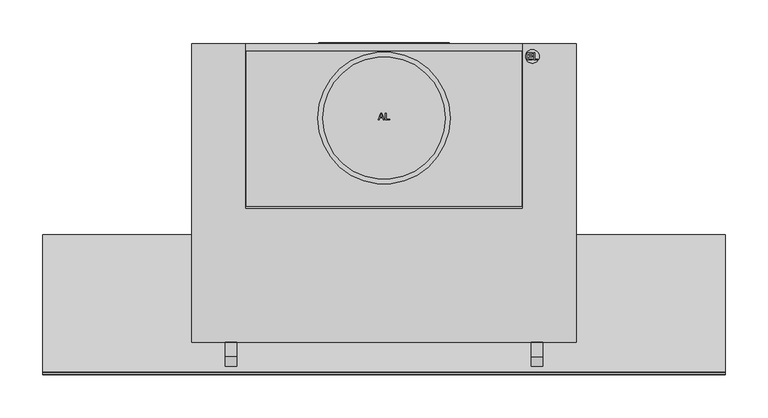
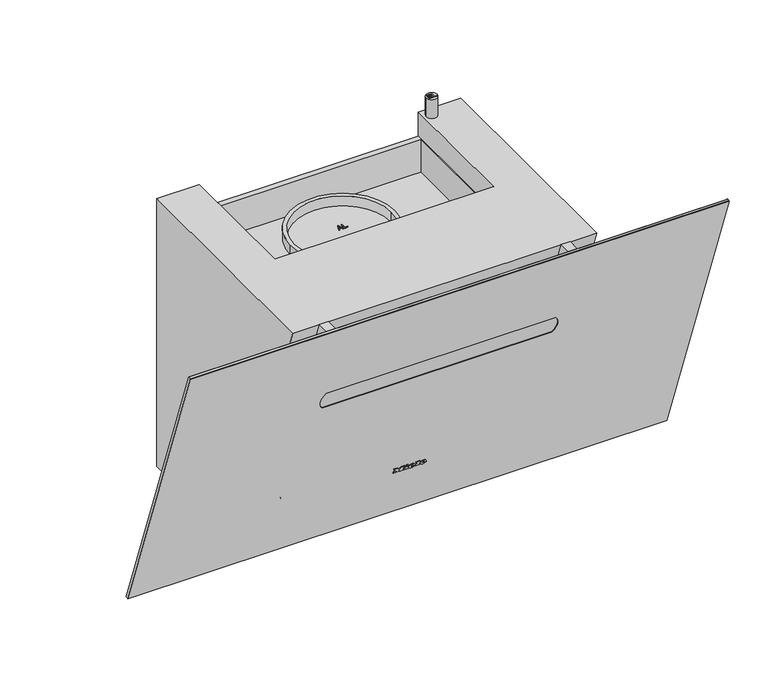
"""IFC4 building model written with IfcOpenShell, lengths in millimetres: proxy geometry, 12559250_NER_DAH1850_OBSW : 28H1850B_NER_12559250_DAH1850_OBSW."""

from ifc_helpers import new_model, si_unit, point, frame, frame_2d, origin, origin_with_axes, place, context, project, spatial, polyline, circle_curve, ellipse_curve, trimmed, segment, composite_curve, outline, extrude, faceted_brep, source, transform, mapped, element, save
from ifc_brep_helpers import plane_surface, cylinder_surface, revolved_surface, extruded_surface, advanced_brep


def specialty_equipment_f1c80b59(model_context):
    return source(origin(), model_context, "Body", "SolidModel", [
        extrude(outline(polyline([(0.0, 0.0), (0.968, 0.0), (0.968, 5.352), (0.0, 5.352), (0.0, 6.696), (3.52, 6.696), (3.52, 5.352), (2.56, 5.352), (2.56, 1.9488753), (6.136, 6.696), (9.728, 1.8807777), (9.728, 5.352), (8.744, 5.352), (8.744, 6.696), (15.128, 6.696), (15.128, 5.352), (14.112, 5.352), (14.112, 0.0), (15.128, 0.0), (15.128, -1.304), (10.256, -1.304), (7.92, 1.696), (5.576, -1.304), (0.0, -1.304), (0.0, 0.0)])), frame((-24.271984, -261.1380975, 82.2921818), z_axis=(0.0, 0.9396926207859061, 0.34202014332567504), x_axis=(1.0, 0.0, 0.0)), (0.0, 0.0, 1.0), 1.0),
        extrude(outline(polyline([(0.0, 0.0), (0.96, 0.0), (0.96, 5.352), (0.0, 5.352), (0.0, 6.696), (6.488, 6.696), (6.488, 5.352), (5.504, 5.352), (5.504, -1.304), (0.0, -1.304), (0.0, 0.0)])), frame((8.192016, -261.1380975, 82.2921818), z_axis=(0.0, 0.9396926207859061, 0.34202014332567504), x_axis=(1.0, 0.0, 0.0)), (0.0, 0.0, 1.0), 1.0),
        extrude(outline(polyline([(0.0, 0.0), (1.4315306, 0.0), (1.4390414, -2.9920869), (0.0109086, -2.9993294), (0.0, 0.0)])), frame((-6.351984, -261.4226582, 83.074006), z_axis=(0.0, 0.9396926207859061, 0.342020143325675), x_axis=(0.42472021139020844, 0.30963927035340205, -0.8507269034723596)), (0.0, 0.0, 1.0), 1.0),
        extrude(outline(polyline([(0.4933907, 2.4141097), (1.7898156, 3.022309), (2.1941493, 2.1604399), (5.1636141, 3.5535222), (4.7592805, 4.4153913), (5.9760369, 4.9862153), (8.6568708, -0.728194), (7.4401145, -1.299018), (7.0459741, -0.4588767), (2.7800843, -2.4601583), (0.4933907, 2.4141097)])), frame((-6.351984, -261.4226582, 83.074006), z_axis=(0.0, 0.9396926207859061, 0.342020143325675), x_axis=(0.42472021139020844, 0.30963927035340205, -0.8507269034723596)), (0.0, 0.0, 1.0), 1.0),
        advanced_brep(
        [(2.392016, -259.4964008, 77.7816572), (2.392016, -259.7727531, 78.5409288), (7.744016, -259.7727531, 78.5409288), (-1.567984, -259.7727531, 78.5409288), (0.632016, -258.8479306, 76.0), (7.608016, -259.4964008, 77.7816572), (5.192016, -259.4964008, 77.7816572), (3.288016, -259.1899507, 76.9396926), (2.392016, -260.1229817, 79.5031741), (2.392016, -260.4212233, 80.3225861), (3.760016, -260.4212233, 80.3225861), (3.760016, -260.1229817, 79.5031741), (2.392016, -258.5567082, 78.1236774), (3.288016, -258.2502581, 77.2817128), (5.192016, -258.5567082, 78.1236774), (7.608016, -258.5567082, 78.1236774), (0.632016, -257.908238, 76.3420201), (-1.567984, -258.8330604, 78.882949), (7.744016, -258.8330604, 78.882949), (2.392016, -258.8330604, 78.882949), (2.392016, -259.1832891, 79.8451942), (3.760016, -259.1832891, 79.8451942), (3.760016, -259.4815306, 80.6646062), (2.392016, -259.4815306, 80.6646062)],
        [
            (0, 1),
            (1, 2),
            (2, 3, ellipse_curve(frame((3.088016, -259.7727531, 78.5409288), z_axis=(0.0, -0.9396926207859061, -0.34202014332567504), x_axis=(-1.0, 0.0, 0.0)), 4.656, 3.848)),
            (3, 4, circle_curve(frame((1.5280596, -259.8657825, 78.7965252), z_axis=(0.0, -0.9396926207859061, -0.34202014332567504), x_axis=(0.0, 0.34202014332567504, -0.9396926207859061)), 3.1079688)),
            (4, 5, circle_curve(frame((2.9948096, -260.5881291, 80.7811561), z_axis=(0.0, -0.9396926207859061, -0.34202014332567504), x_axis=(0.0, 0.34202014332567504, -0.9396926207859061)), 5.6098607)),
            (5, 6),
            (6, 7, circle_curve(frame((3.6790748, -259.7508638, 78.4807885), z_axis=(0.0, 0.9396926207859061, 0.34202014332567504), x_axis=(0.0, 0.34202014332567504, -0.9396926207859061)), 1.6859795)),
            (7, 0, circle_curve(frame((3.288016, -259.4964008, 77.7816572), z_axis=(0.0, 0.9396926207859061, 0.34202014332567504), x_axis=(0.0, 0.34202014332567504, -0.9396926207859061)), 0.896)),
            (8, 9),
            (9, 10, circle_curve(frame((3.076016, -260.4212233, 80.3225861), z_axis=(0.0, 0.9396926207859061, 0.34202014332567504), x_axis=(0.0, 0.34202014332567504, -0.9396926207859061)), 0.684)),
            (10, 11),
            (11, 8),
            (12, 13, circle_curve(frame((3.288016, -258.5567082, 78.1236774), z_axis=(0.0, -0.9396926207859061, -0.34202014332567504), x_axis=(0.0, 0.34202014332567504, -0.9396926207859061)), 0.896)),
            (13, 14, circle_curve(frame((3.6790748, -258.8111712, 78.8228087), z_axis=(0.0, -0.9396926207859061, -0.34202014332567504), x_axis=(0.0, 0.34202014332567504, -0.9396926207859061)), 1.6859795)),
            (14, 15),
            (15, 16, circle_curve(frame((2.9948096, -259.6484365, 81.1231762), z_axis=(0.0, 0.9396926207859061, 0.34202014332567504), x_axis=(0.0, 0.34202014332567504, -0.9396926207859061)), 5.6098607)),
            (16, 17, circle_curve(frame((1.5280596, -258.9260899, 79.1385454), z_axis=(0.0, 0.9396926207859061, 0.34202014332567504), x_axis=(0.0, 0.34202014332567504, -0.9396926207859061)), 3.1079688)),
            (17, 18, ellipse_curve(frame((3.088016, -258.8330604, 78.882949), z_axis=(0.0, 0.9396926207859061, 0.34202014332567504), x_axis=(-1.0, 0.0, 0.0)), 4.656, 3.848)),
            (18, 19),
            (19, 12),
            (20, 21),
            (21, 22),
            (22, 23, circle_curve(frame((3.076016, -259.4815306, 80.6646062), z_axis=(0.0, -0.9396926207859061, -0.34202014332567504), x_axis=(0.0, 0.34202014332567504, -0.9396926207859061)), 0.684)),
            (23, 20),
            (0, 12),
            (19, 1),
            (18, 2),
            (5, 15),
            (14, 6),
            (17, 3),
            (13, 7),
            (16, 4),
            (8, 20),
            (23, 9),
            (22, 10),
            (21, 11),
        ],
        [
            plane_surface(frame((2.392016, -259.7727531, 78.5409288), z_axis=(0.0, -0.9396926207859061, -0.34202014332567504), x_axis=(0.0, -0.34202014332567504, 0.9396926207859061))),
            plane_surface(frame((2.392016, -258.8330604, 78.882949), z_axis=(0.0, 0.9396926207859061, 0.34202014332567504), x_axis=(0.0, 0.34202014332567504, -0.9396926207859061))),
            plane_surface(frame((2.392016, -259.4964008, 77.7816572), z_axis=(1.0, 0.0, 0.0), x_axis=(0.0, 0.9396926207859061, 0.34202014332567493))),
            plane_surface(frame((2.392016, -259.7727531, 78.5409288), z_axis=(0.0, 0.34202014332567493, -0.9396926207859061), x_axis=(0.0, 0.9396926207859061, 0.34202014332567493))),
            plane_surface(frame((7.608016, -259.4964008, 77.7816572), z_axis=(0.0, -0.34202014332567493, 0.9396926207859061), x_axis=(0.0, 0.9396926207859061, 0.34202014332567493))),
            extruded_surface(trimmed(ellipse_curve(frame((3.088016, -257.8933678, 79.2249691), z_axis=(0.0, -0.9396926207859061, -0.34202014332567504), x_axis=(-1.0, 0.0, 0.0)), 4.656, 3.848), [point((7.744016, -257.8933678, 79.2249691))], [point((-1.567984, -257.8933678, 79.2249691))], True, "CARTESIAN"), (0.0, -0.9396926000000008, -0.34202009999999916), 0.9999999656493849),
            revolved_surface(polyline([(3.6790748, -258.2345321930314, 77.23850622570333), (3.6790748, -259.1742248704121, 76.89648606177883)]), (3.6790748, -258.8111712, 78.8228087), (0.0, 0.9396926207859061, 0.34202014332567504)),
            revolved_surface(polyline([(3.288016, -258.25025810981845, 77.28171282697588), (3.288016, -259.1899507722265, 76.93969266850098)]), (3.288016, -258.5567082, 78.1236774), (0.0, 0.9396926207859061, 0.34202014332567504)),
            cylinder_surface(frame((1.5280596, -258.9260899, 79.1385454), z_axis=(0.0, -0.9396926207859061, -0.34202014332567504), x_axis=(0.0, 0.34202014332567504, -0.9396926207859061)), 3.1079688),
            cylinder_surface(frame((2.9948096, -259.6484365, 81.1231762), z_axis=(0.0, -0.9396926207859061, -0.34202014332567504), x_axis=(0.0, 0.34202014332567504, -0.9396926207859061)), 5.6098607),
            plane_surface(frame((2.392016, -260.1229817, 79.5031741), z_axis=(1.0, 0.0, 0.0), x_axis=(0.0, 0.9396926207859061, 0.34202014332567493))),
            revolved_surface(polyline([(3.076016, -259.2475888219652, 80.02185644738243), (3.076016, -260.1872814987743, 79.67983628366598)]), (3.076016, -259.4815306, 80.6646062), (0.0, 0.9396926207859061, 0.34202014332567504)),
            plane_surface(frame((3.760016, -260.4212233, 80.3225861), z_axis=(-1.0, 0.0, 0.0), x_axis=(0.0, 0.9396926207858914, 0.3420201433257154))),
            plane_surface(frame((3.760016, -260.1229817, 79.5031741), z_axis=(0.0, -0.34202014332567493, 0.9396926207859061), x_axis=(0.0, 0.9396926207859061, 0.34202014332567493))),
        ],
        [
            (0, [[1, 2, 3, 4, 5, 6, 7, 8], [9, 10, 11, 12]]),
            (1, [[13, 14, 15, 16, 17, 18, 19, 20], [21, 22, 23, 24]]),
            (2, [[-1, 25, -20, 26]]),
            (3, [[-2, -26, -19, 27]]),
            (4, [[-6, 28, -15, 29]]),
            (5, [[-3, -27, -18, 30]]),
            (6, [[-7, -29, -14, 31]]),
            (7, [[-8, -31, -13, -25]]),
            (8, [[-4, -30, -17, 32]]),
            (9, [[-5, -32, -16, -28]]),
            (10, [[-9, 33, -24, 34]]),
            (11, [[-10, -34, -23, 35]]),
            (12, [[-11, -35, -22, 36]]),
            (13, [[-12, -36, -21, -33]]),
        ],
    ),
        advanced_brep(
        [(19.088016, -259.4964008, 77.7816572), (19.088016, -259.7727531, 78.5409288), (24.440016, -259.7727531, 78.5409288), (15.128016, -259.7727531, 78.5409288), (17.328016, -258.8479306, 76.0), (24.304016, -259.4964008, 77.7816572), (21.888016, -259.4964008, 77.7816572), (19.984016, -259.1899507, 76.9396926), (19.088016, -260.1229817, 79.5031741), (19.088016, -260.4212233, 80.3225861), (20.456016, -260.4212233, 80.3225861), (20.456016, -260.1229817, 79.5031741), (19.088016, -258.5567082, 78.1236774), (19.984016, -258.2502581, 77.2817128), (21.888016, -258.5567082, 78.1236774), (24.304016, -258.5567082, 78.1236774), (17.328016, -257.908238, 76.3420201), (15.128016, -258.8330604, 78.882949), (24.440016, -258.8330604, 78.882949), (19.088016, -258.8330604, 78.882949), (19.088016, -259.1832891, 79.8451942), (20.456016, -259.1832891, 79.8451942), (20.456016, -259.4815306, 80.6646062), (19.088016, -259.4815306, 80.6646062)],
        [
            (0, 1),
            (1, 2),
            (2, 3, ellipse_curve(frame((19.784016, -259.7727531, 78.5409288), z_axis=(0.0, -0.9396926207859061, -0.34202014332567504), x_axis=(-1.0, 0.0, 0.0)), 4.656, 3.848)),
            (3, 4, circle_curve(frame((18.2240596, -259.8657825, 78.7965252), z_axis=(0.0, -0.9396926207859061, -0.34202014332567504), x_axis=(0.0, 0.34202014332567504, -0.9396926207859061)), 3.1079688)),
            (4, 5, circle_curve(frame((19.6908096, -260.5881291, 80.7811561), z_axis=(0.0, -0.9396926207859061, -0.34202014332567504), x_axis=(0.0, 0.34202014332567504, -0.9396926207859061)), 5.6098607)),
            (5, 6),
            (6, 7, circle_curve(frame((20.3750748, -259.7508638, 78.4807885), z_axis=(0.0, 0.9396926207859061, 0.34202014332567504), x_axis=(0.0, 0.34202014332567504, -0.9396926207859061)), 1.6859795)),
            (7, 0, circle_curve(frame((19.984016, -259.4964008, 77.7816572), z_axis=(0.0, 0.9396926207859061, 0.34202014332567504), x_axis=(0.0, 0.34202014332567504, -0.9396926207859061)), 0.896)),
            (8, 9),
            (9, 10, circle_curve(frame((19.772016, -260.4212233, 80.3225861), z_axis=(0.0, 0.9396926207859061, 0.34202014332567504), x_axis=(0.0, 0.34202014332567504, -0.9396926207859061)), 0.684)),
            (10, 11),
            (11, 8),
            (12, 13, circle_curve(frame((19.984016, -258.5567082, 78.1236774), z_axis=(0.0, -0.9396926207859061, -0.34202014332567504), x_axis=(0.0, 0.34202014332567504, -0.9396926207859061)), 0.896)),
            (13, 14, circle_curve(frame((20.3750748, -258.8111712, 78.8228087), z_axis=(0.0, -0.9396926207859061, -0.34202014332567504), x_axis=(0.0, 0.34202014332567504, -0.9396926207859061)), 1.6859795)),
            (14, 15),
            (15, 16, circle_curve(frame((19.6908096, -259.6484365, 81.1231762), z_axis=(0.0, 0.9396926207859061, 0.34202014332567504), x_axis=(0.0, 0.34202014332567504, -0.9396926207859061)), 5.6098607)),
            (16, 17, circle_curve(frame((18.2240596, -258.9260899, 79.1385454), z_axis=(0.0, 0.9396926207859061, 0.34202014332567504), x_axis=(0.0, 0.34202014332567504, -0.9396926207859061)), 3.1079688)),
            (17, 18, ellipse_curve(frame((19.784016, -258.8330604, 78.882949), z_axis=(0.0, 0.9396926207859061, 0.34202014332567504), x_axis=(-1.0, 0.0, 0.0)), 4.656, 3.848)),
            (18, 19),
            (19, 12),
            (20, 21),
            (21, 22),
            (22, 23, circle_curve(frame((19.772016, -259.4815306, 80.6646062), z_axis=(0.0, -0.9396926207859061, -0.34202014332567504), x_axis=(0.0, 0.34202014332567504, -0.9396926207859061)), 0.684)),
            (23, 20),
            (0, 12),
            (19, 1),
            (18, 2),
            (5, 15),
            (14, 6),
            (17, 3),
            (13, 7),
            (16, 4),
            (8, 20),
            (23, 9),
            (22, 10),
            (21, 11),
        ],
        [
            plane_surface(frame((19.088016, -259.7727531, 78.5409288), z_axis=(0.0, -0.9396926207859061, -0.34202014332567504), x_axis=(0.0, -0.34202014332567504, 0.9396926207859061))),
            plane_surface(frame((19.088016, -258.8330604, 78.882949), z_axis=(0.0, 0.9396926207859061, 0.34202014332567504), x_axis=(0.0, 0.34202014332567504, -0.9396926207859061))),
            plane_surface(frame((19.088016, -259.4964008, 77.7816572), z_axis=(1.0, 0.0, 0.0), x_axis=(0.0, 0.9396926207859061, 0.34202014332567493))),
            plane_surface(frame((19.088016, -259.7727531, 78.5409288), z_axis=(0.0, 0.34202014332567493, -0.9396926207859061), x_axis=(0.0, 0.9396926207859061, 0.34202014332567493))),
            plane_surface(frame((24.304016, -259.4964008, 77.7816572), z_axis=(0.0, -0.34202014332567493, 0.9396926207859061), x_axis=(0.0, 0.9396926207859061, 0.34202014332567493))),
            extruded_surface(trimmed(ellipse_curve(frame((19.784016, -257.8933678, 79.2249691), z_axis=(0.0, -0.9396926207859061, -0.34202014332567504), x_axis=(-1.0, 0.0, 0.0)), 4.656, 3.848), [point((24.440016, -257.8933678, 79.2249691))], [point((15.128016, -257.8933678, 79.2249691))], True, "CARTESIAN"), (0.0, -0.9396926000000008, -0.34202009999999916), 0.9999999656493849),
            revolved_surface(polyline([(20.3750748, -258.2345321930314, 77.23850622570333), (20.3750748, -259.1742248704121, 76.89648606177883)]), (20.3750748, -258.8111712, 78.8228087), (0.0, 0.9396926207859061, 0.34202014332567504)),
            revolved_surface(polyline([(19.984016, -258.25025810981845, 77.28171282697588), (19.984016, -259.1899507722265, 76.93969266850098)]), (19.984016, -258.5567082, 78.1236774), (0.0, 0.9396926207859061, 0.34202014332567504)),
            cylinder_surface(frame((18.2240596, -258.9260899, 79.1385454), z_axis=(0.0, -0.9396926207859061, -0.34202014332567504), x_axis=(0.0, 0.34202014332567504, -0.9396926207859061)), 3.1079688),
            cylinder_surface(frame((19.6908096, -259.6484365, 81.1231762), z_axis=(0.0, -0.9396926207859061, -0.34202014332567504), x_axis=(0.0, 0.34202014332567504, -0.9396926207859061)), 5.6098607),
            plane_surface(frame((19.088016, -260.1229817, 79.5031741), z_axis=(1.0, 0.0, 0.0), x_axis=(0.0, 0.9396926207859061, 0.34202014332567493))),
            revolved_surface(polyline([(19.772016, -259.2475888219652, 80.02185644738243), (19.772016, -260.1872814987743, 79.67983628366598)]), (19.772016, -259.4815306, 80.6646062), (0.0, 0.9396926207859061, 0.34202014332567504)),
            plane_surface(frame((20.456016, -260.4212233, 80.3225861), z_axis=(-1.0, 0.0, 0.0), x_axis=(0.0, 0.9396926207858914, 0.3420201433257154))),
            plane_surface(frame((20.456016, -260.1229817, 79.5031741), z_axis=(0.0, -0.34202014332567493, 0.9396926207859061), x_axis=(0.0, 0.9396926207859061, 0.34202014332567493))),
        ],
        [
            (0, [[1, 2, 3, 4, 5, 6, 7, 8], [9, 10, 11, 12]]),
            (1, [[13, 14, 15, 16, 17, 18, 19, 20], [21, 22, 23, 24]]),
            (2, [[-1, 25, -20, 26]]),
            (3, [[-2, -26, -19, 27]]),
            (4, [[-6, 28, -15, 29]]),
            (5, [[-3, -27, -18, 30]]),
            (6, [[-7, -29, -14, 31]]),
            (7, [[-8, -31, -13, -25]]),
            (8, [[-4, -30, -17, 32]]),
            (9, [[-5, -32, -16, -28]]),
            (10, [[-9, 33, -24, 34]]),
            (11, [[-10, -34, -23, 35]]),
            (12, [[-11, -35, -22, 36]]),
            (13, [[-12, -36, -21, -33]]),
        ],
    ),
        advanced_brep(
        [(-198.5, -231.2422284, 80.5173231), (-198.5, -240.9843308, 107.2835295), (-198.5, -235.8312261, 109.4708926), (-198.5, -225.8887113, 82.1540576), (-198.5, -250.514978, 76.8365225), (-198.5, -258.1140866, 97.7149017), (-198.5, -258.4754112, 96.7430581), (-198.5, -251.4164577, 77.3487429), (-198.5, -254.9459345, 87.0459005), (-198.5, -230.9198317, 95.7906867)],
        [
            (0, 1, circle_curve(frame((-198.5, -236.1132796, 93.9004263), z_axis=(0.0, 0.9396926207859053, 0.3420201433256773), x_axis=(0.0, -0.3420201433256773, 0.9396926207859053)), 14.2420009)),
            (1, 2),
            (2, 3, circle_curve(frame((-198.5, -230.8599687, 95.8124751), z_axis=(0.0, -0.9396926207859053, -0.3420201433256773), x_axis=(0.0, -0.3420201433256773, 0.9396926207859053)), 14.5349844)),
            (3, 0),
            (4, 5, circle_curve(frame((-198.5, -254.3145323, 87.2757121), z_axis=(0.0, 0.9396926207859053, 0.3420201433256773), x_axis=(0.0, -0.3420201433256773, 0.9396926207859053)), 11.1091535)),
            (5, 1),
            (0, 4),
            (6, 7, circle_curve(frame((-198.5, -254.9459345, 87.0459005), z_axis=(0.0, 0.9396926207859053, 0.3420201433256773), x_axis=(0.0, -0.3420201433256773, 0.9396926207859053)), 10.3194996)),
            (7, 4),
            (4, 5, circle_curve(frame((-198.5, -254.3145323, 87.2757121), z_axis=(0.0, -0.9396926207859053, -0.3420201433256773), x_axis=(0.0, -0.3420201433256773, 0.9396926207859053)), 11.1091535)),
            (5, 6),
            (8, 7),
            (6, 8),
            (2, 9),
            (9, 3),
            (2, 3, circle_curve(frame((-198.5, -230.9198317, 95.7906867), z_axis=(0.0, 0.9396926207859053, 0.3420201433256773), x_axis=(0.0, -0.3420201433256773, 0.9396926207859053)), 14.535124)),
            (1, 0, circle_curve(frame((-198.5, -236.1132796, 93.9004263), z_axis=(0.0, 0.9396926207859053, 0.3420201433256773), x_axis=(0.0, -0.3420201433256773, 0.9396926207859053)), 14.2420009)),
            (7, 6, circle_curve(frame((-198.5, -254.9459345, 87.0459005), z_axis=(0.0, 0.9396926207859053, 0.3420201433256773), x_axis=(0.0, -0.3420201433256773, 0.9396926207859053)), 10.3194996)),
        ],
        [
            revolved_surface(polyline([(-198.5, -235.8312261, 109.4708926), (-198.5, -240.9843308, 107.2835295)]), (-198.5, -255.2773841, 86.9252627), (0.0, -0.9396926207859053, -0.3420201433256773)),
            revolved_surface(polyline([(-198.5, -240.9843308, 107.2835295), (-198.5, -258.1140866, 97.7149017)]), (-198.5, -255.2773841, 86.9252627), (0.0, -0.9396926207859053, -0.3420201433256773)),
            revolved_surface(polyline([(-198.5, -258.1140866, 97.7149017), (-198.5, -258.4754112, 96.7430581)]), (-198.5, -255.2773841, 86.9252627), (0.0, -0.9396926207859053, -0.3420201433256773)),
            plane_surface(frame((-198.5, -254.9459345, 87.0459005), z_axis=(0.0, -0.9396926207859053, -0.3420201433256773), x_axis=(0.0, -0.3420201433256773, 0.9396926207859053))),
            plane_surface(frame((-198.5, -230.9198317, 95.7906867), z_axis=(0.0, 0.9396926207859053, 0.3420201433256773), x_axis=(0.0, -0.3420201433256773, 0.9396926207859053))),
        ],
        [
            (0, [[1, 2, 3, 4]]),
            (1, [[5, 6, -1, 7]]),
            (2, [[8, 9, 10, 11]]),
            (3, [[12, -8, 13]]),
            (4, [[-3, 14, 15]]),
            (4, [[16, -15, -14]]),
            (0, [[17, -4, -16, -2]]),
            (1, [[-10, -7, -17, -6]]),
            (2, [[18, -11, -5, -9]]),
            (3, [[-13, -18, -12]]),
        ],
    ),
        advanced_brep(
        [(-198.5, -262.8067778, 105.2732379), (-198.5, -249.4001153, 68.4387353), (-198.5, -252.3199878, 80.8696014), (-198.5, -257.0531232, 93.8737841), (-198.5, -250.699917, 68.232867), (-198.5, -263.9348133, 104.5954458), (-198.5, -257.3173652, 86.4141564), (-198.5, -254.6865555, 87.3716928)],
        [
            (0, 1, circle_curve(frame((-198.5, -256.1034466, 86.8559866), z_axis=(0.0, 0.9396926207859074, 0.34202014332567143), x_axis=(0.0, -0.34202014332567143, 0.9396926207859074)), 19.5992294)),
            (1, 2),
            (2, 3, circle_curve(frame((-198.5, -254.6865555, 87.3716928), z_axis=(0.0, -0.9396926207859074, -0.34202014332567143), x_axis=(0.0, -0.34202014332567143, 0.9396926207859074)), 6.9193811)),
            (3, 0),
            (1, 0, circle_curve(frame((-198.5, -256.1034466, 86.8559866), z_axis=(0.0, 0.9396926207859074, 0.34202014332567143), x_axis=(0.0, -0.34202014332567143, 0.9396926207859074)), 19.5992294)),
            (3, 2, circle_curve(frame((-198.5, -254.6865555, 87.3716928), z_axis=(0.0, -0.9396926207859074, -0.34202014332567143), x_axis=(0.0, -0.34202014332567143, 0.9396926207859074)), 6.9193811)),
            (4, 5, circle_curve(frame((-198.5, -257.3173652, 86.4141564), z_axis=(0.0, 0.9396926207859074, 0.34202014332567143), x_axis=(0.0, -0.34202014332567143, 0.9396926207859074)), 19.3481241)),
            (5, 0),
            (1, 4),
            (5, 4, circle_curve(frame((-198.5, -257.3173652, 86.4141564), z_axis=(0.0, 0.9396926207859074, 0.34202014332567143), x_axis=(0.0, -0.34202014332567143, 0.9396926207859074)), 19.3481241)),
            (6, 5),
            (4, 6),
            (3, 7),
            (7, 2),
        ],
        [
            revolved_surface(polyline([(-198.5, -257.0531232, 93.8737841), (-198.5, -262.8067778, 105.2732379)]), (-198.5, -254.6865555, 87.3716928), (0.0, -0.9396926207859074, -0.34202014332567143)),
            revolved_surface(polyline([(-198.5, -262.8067778, 105.2732379), (-198.5, -263.9348133, 104.5954458)]), (-198.5, -254.6865555, 87.3716928), (0.0, -0.9396926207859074, -0.34202014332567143)),
            plane_surface(frame((-198.5, -257.3173652, 86.4141564), z_axis=(0.0, -0.9396926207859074, -0.34202014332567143), x_axis=(0.0, -0.34202014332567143, 0.9396926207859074))),
            plane_surface(frame((-198.5, -254.6865555, 87.3716928), z_axis=(0.0, 0.9396926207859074, 0.34202014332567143), x_axis=(0.0, -0.34202014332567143, 0.9396926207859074))),
        ],
        [
            (0, [[1, 2, 3, 4]]),
            (0, [[5, -4, 6, -2]]),
            (1, [[7, 8, -5, 9]]),
            (1, [[10, -9, -1, -8]]),
            (2, [[11, -7, 12]]),
            (2, [[-12, -10, -11]]),
            (3, [[-6, 13, 14]]),
            (3, [[-3, -14, -13]]),
        ],
    ),
        advanced_brep(
        [(198.5, -225.9091808, 82.1477994), (198.5, -235.8509293, 109.4625291), (198.5, -240.9843308, 107.2835295), (198.5, -231.2422284, 80.5173231), (198.5, -258.1140866, 97.7149017), (198.5, -250.514978, 76.8365225), (198.5, -230.9018417, 95.8650227), (198.5, -258.4754112, 96.7430581), (198.5, -251.4164577, 77.3487429), (198.5, -254.9459345, 87.0459005)],
        [
            (0, 1, circle_curve(frame((198.5, -230.8800551, 95.8051643), z_axis=(0.0, -0.9396926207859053, -0.3420201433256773), x_axis=(0.0, -0.3420201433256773, 0.9396926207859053)), 14.5338641)),
            (1, 2),
            (2, 3, circle_curve(frame((198.5, -236.1132796, 93.9004263), z_axis=(0.0, 0.9396926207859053, 0.3420201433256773), x_axis=(0.0, -0.3420201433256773, 0.9396926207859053)), 14.2420009)),
            (3, 0),
            (2, 4),
            (4, 5, circle_curve(frame((198.5, -254.3145323, 87.2757121), z_axis=(0.0, 0.9396926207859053, 0.3420201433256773), x_axis=(0.0, -0.3420201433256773, 0.9396926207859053)), 11.1091535)),
            (5, 3),
            (6, 1),
            (0, 6),
            (0, 1, circle_curve(frame((198.5, -230.8800551, 95.8051643), z_axis=(0.0, 0.9396926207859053, 0.3420201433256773), x_axis=(0.0, -0.3420201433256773, 0.9396926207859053)), 14.5338641)),
            (3, 2, circle_curve(frame((198.5, -236.1132796, 93.9004263), z_axis=(0.0, 0.9396926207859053, 0.3420201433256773), x_axis=(0.0, -0.3420201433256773, 0.9396926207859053)), 14.2420009)),
            (5, 4, circle_curve(frame((198.5, -254.3145323, 87.2757121), z_axis=(0.0, 0.9396926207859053, 0.3420201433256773), x_axis=(0.0, -0.3420201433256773, 0.9396926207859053)), 11.1091535)),
            (4, 7),
            (7, 8, circle_curve(frame((198.5, -254.9459345, 87.0459005), z_axis=(0.0, 0.9396926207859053, 0.3420201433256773), x_axis=(0.0, -0.3420201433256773, 0.9396926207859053)), 10.3194996)),
            (8, 5),
            (8, 7, circle_curve(frame((198.5, -254.9459345, 87.0459005), z_axis=(0.0, 0.9396926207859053, 0.3420201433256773), x_axis=(0.0, -0.3420201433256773, 0.9396926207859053)), 10.3194996)),
            (7, 9),
            (9, 8),
        ],
        [
            revolved_surface(polyline([(198.5, -240.9843308, 107.2835295), (198.5, -235.8509293, 109.4625291)]), (198.5, -255.2773841, 86.9252627), (0.0, 0.9396926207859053, 0.3420201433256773)),
            revolved_surface(polyline([(198.5, -258.1140866, 97.7149017), (198.5, -240.9843308, 107.2835295)]), (198.5, -255.2773841, 86.9252627), (0.0, 0.9396926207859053, 0.3420201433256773)),
            plane_surface(frame((198.5, -230.8800551, 95.8051643), z_axis=(0.0, 0.9396926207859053, 0.3420201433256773), x_axis=(0.0, -0.3420201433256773, 0.9396926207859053))),
            revolved_surface(polyline([(198.5, -258.4754112, 96.7430581), (198.5, -258.1140866, 97.7149017)]), (198.5, -255.2773841, 86.9252627), (0.0, 0.9396926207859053, 0.3420201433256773)),
            plane_surface(frame((198.5, -254.9459345, 87.0459005), z_axis=(0.0, -0.9396926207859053, -0.3420201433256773), x_axis=(0.0, -0.3420201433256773, 0.9396926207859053))),
        ],
        [
            (0, [[1, 2, 3, 4]]),
            (1, [[-3, 5, 6, 7]]),
            (2, [[8, -1, 9]]),
            (2, [[-9, 10, -8]]),
            (0, [[-10, -4, 11, -2]]),
            (1, [[-11, -7, 12, -5]]),
            (3, [[-6, 13, 14, 15]]),
            (3, [[-12, -15, 16, -13]]),
            (4, [[-14, 17, 18]]),
            (4, [[-16, -18, -17]]),
        ],
    ),
        advanced_brep(
        [(198.5, -252.3199878, 80.8696014), (198.5, -257.0531232, 93.8737841), (198.5, -262.8067778, 105.2732379), (198.5, -249.4001153, 68.4387353), (198.5, -263.9348133, 104.5954458), (198.5, -250.699917, 68.232867), (198.5, -257.3173652, 86.4141564), (198.5, -254.6865555, 87.3716928)],
        [
            (0, 1, circle_curve(frame((198.5, -254.6865555, 87.3716928), z_axis=(0.0, -0.9396926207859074, -0.34202014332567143), x_axis=(0.0, -0.34202014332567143, 0.9396926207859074)), 6.9193811)),
            (1, 2),
            (2, 3, circle_curve(frame((198.5, -256.1034466, 86.8559866), z_axis=(0.0, 0.9396926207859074, 0.34202014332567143), x_axis=(0.0, -0.34202014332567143, 0.9396926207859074)), 19.5992294)),
            (3, 0),
            (1, 0, circle_curve(frame((198.5, -254.6865555, 87.3716928), z_axis=(0.0, -0.9396926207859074, -0.34202014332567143), x_axis=(0.0, -0.34202014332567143, 0.9396926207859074)), 6.9193811)),
            (3, 2, circle_curve(frame((198.5, -256.1034466, 86.8559866), z_axis=(0.0, 0.9396926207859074, 0.34202014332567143), x_axis=(0.0, -0.34202014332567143, 0.9396926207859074)), 19.5992294)),
            (2, 4),
            (4, 5, circle_curve(frame((198.5, -257.3173652, 86.4141564), z_axis=(0.0, 0.9396926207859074, 0.34202014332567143), x_axis=(0.0, -0.34202014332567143, 0.9396926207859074)), 19.3481241)),
            (5, 3),
            (5, 4, circle_curve(frame((198.5, -257.3173652, 86.4141564), z_axis=(0.0, 0.9396926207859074, 0.34202014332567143), x_axis=(0.0, -0.34202014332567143, 0.9396926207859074)), 19.3481241)),
            (4, 6),
            (6, 5),
            (7, 1),
            (0, 7),
        ],
        [
            revolved_surface(polyline([(198.5, -262.8067778, 105.2732379), (198.5, -257.0531232, 93.8737841)]), (198.5, -254.6865555, 87.3716928), (0.0, 0.9396926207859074, 0.34202014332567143)),
            revolved_surface(polyline([(198.5, -263.9348133, 104.5954458), (198.5, -262.8067778, 105.2732379)]), (198.5, -254.6865555, 87.3716928), (0.0, 0.9396926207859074, 0.34202014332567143)),
            plane_surface(frame((198.5, -257.3173652, 86.4141564), z_axis=(0.0, -0.9396926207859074, -0.34202014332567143), x_axis=(0.0, -0.34202014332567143, 0.9396926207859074))),
            plane_surface(frame((198.5, -254.6865555, 87.3716928), z_axis=(0.0, 0.9396926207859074, 0.34202014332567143), x_axis=(0.0, -0.34202014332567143, 0.9396926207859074))),
        ],
        [
            (0, [[1, 2, 3, 4]]),
            (0, [[5, -4, 6, -2]]),
            (1, [[-3, 7, 8, 9]]),
            (1, [[-6, -9, 10, -7]]),
            (2, [[-8, 11, 12]]),
            (2, [[-10, -12, -11]]),
            (3, [[13, -1, 14]]),
            (3, [[-14, -5, -13]]),
        ],
    ),
        extrude(outline(polyline([(-377.2541471, 415.9959153), (-366.2530147, 420.0), (-348.8949883, 420.0), (-315.0686278, 327.0628384), (-321.2276447, 324.8211395), (-334.9582954, 325.4920509), (-347.6637142, 334.6968691), (-377.2541471, 415.9959153)])), frame((-185.7167767, 0.0, 0.0), z_axis=(1.0, 0.0, 0.0), x_axis=(0.0, 1.0, 0.0)), (0.0, 0.0, 1.0), 13.4088513),
        extrude(outline(polyline([(-377.2541471, 415.9959153), (-366.2530147, 420.0), (-348.8949883, 420.0), (-315.0686278, 327.0628384), (-321.2276447, 324.8211395), (-334.9582954, 325.4920509), (-347.6637142, 334.6968691), (-377.2541471, 415.9959153)])), frame((172.3079253, 0.0, 0.0), z_axis=(1.0, 0.0, 0.0), x_axis=(0.0, 1.0, 0.0)), (0.0, 0.0, 1.0), 13.4088513),
        advanced_brep(
        [(399.0, -387.3899893, 432.0882368), (399.0, -387.1323401, 432.8365045), (-399.0, -387.1323401, 432.8365045), (-399.0, -387.3899893, 432.0882368), (399.0, -227.0596169, -8.4158411), (399.0, -226.3696341, -8.8142029), (399.0, -223.5613092, -7.7920563), (399.0, -223.2772642, -7.0520936), (399.0, -383.5944926, 433.4158714), (399.0, -384.310791, 433.8634644), (-399.0, -384.310791, 433.8634644), (-399.0, -383.5944926, 433.4158714), (-399.0, -223.2772642, -7.0520936), (-399.0, -223.5613092, -7.7920563), (-399.0, -226.3696341, -8.8142029), (-399.0, -227.0596169, -8.4158411), (-170.0000153, -329.0580322, 271.8225017), (-170.0000153, -339.664028, 300.9622357), (169.9999847, -339.664028, 300.9622357), (169.9999847, -329.0580322, 271.8225017), (-170.0000153, -338.7237973, 301.3044517), (-170.0000153, -328.1178015, 272.1647177), (169.9999847, -328.1178015, 272.1647177), (169.9999847, -338.7237973, 301.3044517)],
        [
            (0, 1),
            (1, 2),
            (2, 3),
            (3, 0),
            (0, 4),
            (4, 5),
            (5, 6),
            (6, 7),
            (7, 8),
            (8, 9),
            (9, 1),
            (2, 10),
            (10, 11),
            (11, 12),
            (12, 13),
            (13, 14),
            (14, 15),
            (15, 3),
            (15, 4),
            (16, 17, circle_curve(frame((-150.89824, -334.3610301, 286.3923687), z_axis=(0.0, 0.9396926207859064, 0.3420201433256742), x_axis=(1.0, 0.0, 0.0)), 24.6024517)),
            (17, 18),
            (18, 19, circle_curve(frame((150.8956421, -334.3610301, 286.3923687), z_axis=(0.0, 0.9396926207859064, 0.3420201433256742), x_axis=(1.0, 0.0, 0.0)), 24.6044451)),
            (19, 16),
            (14, 5),
            (13, 6),
            (12, 7),
            (11, 8),
            (10, 9),
            (20, 21, circle_curve(frame((-150.89824, -333.4207994, 286.7345847), z_axis=(0.0, -0.9396926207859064, -0.3420201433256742), x_axis=(1.0, 0.0, 0.0)), 24.6024517)),
            (21, 22),
            (22, 23, circle_curve(frame((150.8956421, -333.4207994, 286.7345847), z_axis=(0.0, -0.9396926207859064, -0.3420201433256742), x_axis=(1.0, 0.0, 0.0)), 24.6044451)),
            (23, 20),
            (20, 17),
            (16, 21),
            (19, 22),
            (18, 23),
        ],
        [
            plane_surface(frame((399.0, -387.1323401, 432.8365045), z_axis=(0.0, -0.9455185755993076, 0.32556815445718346), x_axis=(-1.0, 0.0, 0.0))),
            plane_surface(frame((399.0, -387.1323401, 432.8365045), z_axis=(1.0, 0.0, 0.0), x_axis=(0.0, -0.32556815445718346, -0.9455185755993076))),
            plane_surface(frame((-399.0, -387.1323401, 432.8365045), z_axis=(-1.0, 0.0, 0.0), x_axis=(0.0, 0.32556815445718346, 0.9455185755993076))),
            plane_surface(frame((399.0, -387.3899893, 432.0882368), z_axis=(0.0, -0.939692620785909, -0.34202014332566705), x_axis=(-1.0, 0.0, 0.0))),
            plane_surface(frame((399.0, -227.0596169, -8.4158411), z_axis=(0.0, -0.49999999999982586, -0.8660254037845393), x_axis=(-1.0, 0.0, 0.0))),
            plane_surface(frame((399.0, -226.3696341, -8.8142029), z_axis=(0.0, 0.34202014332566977, -0.939692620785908), x_axis=(-1.0, 0.0, 0.0))),
            plane_surface(frame((399.0, -223.5613092, -7.7920563), z_axis=(0.0, 0.9335804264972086, -0.35836794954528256), x_axis=(-1.0, 0.0, 0.0))),
            plane_surface(frame((399.0, -223.2772642, -7.0520936), z_axis=(0.0, 0.9396926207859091, 0.3420201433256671), x_axis=(-1.0, 0.0, 0.0))),
            plane_surface(frame((399.0, -383.5944926, 433.4158714), z_axis=(0.0, 0.5299192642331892, 0.8480480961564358), x_axis=(-1.0, 0.0, 0.0))),
            plane_surface(frame((399.0, -384.310791, 433.8634644), z_axis=(0.0, -0.3420201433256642, 0.9396926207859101), x_axis=(-1.0, 0.0, 0.0))),
            plane_surface(frame((-126.2957883, -333.4207994, 286.7345847), z_axis=(0.0, -0.9396926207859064, -0.3420201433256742), x_axis=(0.0, 0.3420201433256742, -0.9396926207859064))),
            revolved_surface(polyline([(-126.29578829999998, -334.3610301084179, 286.3923687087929), (-126.29578829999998, -333.4207993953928, 286.7345847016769)]), (-150.89824, -333.4207994, 286.7345847), (0.0, -0.9396926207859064, -0.3420201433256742)),
            plane_surface(frame((-170.0000153, -333.9337198, 270.0478966), z_axis=(0.0, -0.3420201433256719, 0.9396926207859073), x_axis=(0.0, 0.9396926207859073, 0.3420201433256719))),
            revolved_surface(polyline([(175.5000872, -334.3610301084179, 286.3923687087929), (175.5000872, -333.4207993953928, 286.7345847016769)]), (150.8956421, -333.4207994, 286.7345847), (0.0, -0.9396926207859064, -0.3420201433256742)),
            plane_surface(frame((169.9999847, -344.5397156, 299.1876306), z_axis=(0.0, 0.3420201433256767, -0.9396926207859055), x_axis=(0.0, 0.9396926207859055, 0.3420201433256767))),
        ],
        [
            (0, [[1, 2, 3, 4]]),
            (1, [[-1, 5, 6, 7, 8, 9, 10, 11]]),
            (2, [[12, 13, 14, 15, 16, 17, 18, -3]]),
            (3, [[-5, -4, -18, 19], [20, 21, 22, 23]]),
            (4, [[-6, -19, -17, 24]]),
            (5, [[-7, -24, -16, 25]]),
            (6, [[-8, -25, -15, 26]]),
            (7, [[-9, -26, -14, 27]]),
            (8, [[-10, -27, -13, 28]]),
            (9, [[-11, -28, -12, -2]]),
            (10, [[29, 30, 31, 32]]),
            (11, [[-29, 33, -20, 34]]),
            (12, [[-30, -34, -23, 35]]),
            (13, [[-31, -35, -22, 36]]),
            (14, [[-32, -36, -21, -33]]),
        ],
    ),
        faceted_brep([(225.0000193, -349.0, 420.0), (225.0000193, -196.2332597, 0.0), (225.0000193, 0.0, 0.0), (225.0000193, 0.0, 420.0), (-225.0000193, -349.0, 420.0), (-225.0000193, 0.0, 420.0), (-225.0000193, 0.0, 0.0), (-225.0000193, -196.2332597, 0.0), (176.5, -48.0, 0.0), (-176.5, -48.0, 0.0), (-176.5, -181.0, 0.0), (176.5, -181.0, 0.0), (125.0, -12.0, 0.0), (-125.0, -12.0, 0.0), (-125.0, -38.0, 0.0), (125.0, -38.0, 0.0), (-162.2229137, 0.0, 420.0), (-162.2229137, 0.0, 382.5), (162.2229137, 0.0, 382.5), (162.2229137, 0.0, 420.0), (-160.9556997, -9.0, 332.0), (160.9556997, -9.0, 332.0), (160.9556997, -9.0, 382.5), (-160.9556997, -9.0, 382.5), (-160.9556997, -190.0399284, 332.0), (-160.9556997, -190.0399284, 382.5), (160.9556997, -190.0399284, 332.0), (160.9556997, -190.0399284, 382.5), (176.5, -48.0, 11.0), (-176.5, -48.0, 11.0), (125.0, -12.0, 11.0), (-125.0, -12.0, 11.0), (162.2229137, -193.2332597, 420.0), (-162.2229137, -193.2332597, 420.0), (176.5, -181.0, 11.0), (-176.5, -181.0, 11.0), (125.0, -38.0, 11.0), (-125.0, -38.0, 11.0), (162.2229137, -193.2332597, 382.5), (-162.2229137, -193.2332597, 382.5)], [[[0, 1, 2, 3]], [[4, 5, 6, 7]], [[1, 0, 4, 7]], [[2, 1, 7, 6], [8, 9, 10, 11], [12, 13, 14, 15]], [[3, 2, 6, 5, 16, 17, 18, 19]], [[20, 21, 22, 23]], [[24, 20, 23, 25]], [[21, 26, 27, 22]], [[28, 29, 9, 8]], [[30, 31, 13, 12]], [[0, 3, 19, 32, 33, 16, 5, 4]], [[21, 20, 24, 26]], [[26, 24, 25, 27]], [[28, 34, 35, 29]], [[29, 35, 10, 9]], [[35, 34, 11, 10]], [[34, 28, 8, 11]], [[30, 36, 37, 31]], [[31, 37, 14, 13]], [[37, 36, 15, 14]], [[36, 30, 12, 15]], [[32, 38, 39, 33]], [[39, 38, 18, 17], [23, 22, 27, 25]], [[38, 32, 19, 18]], [[33, 39, 17, 16]]]),
        extrude(outline(polyline([(125.0, -12.0), (125.0, -38.0), (-125.0, -38.0), (-125.0, -12.0), (125.0, -12.0)]), holes=[polyline([(-119.0, -31.2), (119.0, -31.2), (119.0, -18.8), (-119.0, -18.8), (-119.0, -31.2)])]), origin_with_axes(), (0.0, 0.0, 1.0), 11.0),
        extrude(outline(polyline([(119.0, -18.8), (119.0, -31.2), (-119.0, -31.2), (-119.0, -18.8), (119.0, -18.8)])), origin_with_axes(), (0.0, 0.0, 1.0), 11.0),
        extrude(outline(polyline([(176.5, -48.0), (176.5, -181.0), (-176.5, -181.0), (-176.5, -48.0), (176.5, -48.0)]), holes=[polyline([(167.5, -57.0), (-167.5, -57.0), (-167.5, -172.0), (167.5, -172.0), (167.5, -57.0)])]), origin_with_axes(), (0.0, 0.0, 1.0), 11.0),
        extrude(outline(polyline([(167.5, -57.0), (167.5, -172.0), (-167.5, -172.0), (-167.5, -57.0), (167.5, -57.0)])), frame((0.0, 0.0, 1.0), z_axis=(0.0, 0.0, 1.0), x_axis=(1.0, 0.0, 0.0)), (0.0, 0.0, 1.0), 10.0),
        extrude(outline(polyline([(-167.5, -98.0), (-124.5000193, -98.0), (-124.5000193, -131.0), (-167.5, -131.0), (-167.5, -98.0)]), holes=[polyline([(-131.0000193, -104.5), (-160.0000193, -104.5), (-160.0000193, -124.5), (-131.0000193, -124.5), (-131.0000193, -104.5)])]), origin_with_axes(), (0.0, 0.0, 1.0), 1.0),
        extrude(outline(polyline([(-131.0000193, -104.5), (-131.0000193, -124.5), (-140.0000193, -124.5), (-140.0000193, -104.5), (-131.0000193, -104.5)])), origin_with_axes(), (0.0, 0.0, 1.0), 1.0),
        extrude(outline(composite_curve([segment(trimmed(circle_curve(frame_2d((0.0, -86.9971466)), 77.2963157), [point((-77.2963157, -86.9971466))], [point((77.2963157, -86.9971466))], False, "CARTESIAN"), True, "CONTINUOUS"), segment(trimmed(circle_curve(frame_2d((0.0, -86.9971466)), 77.2963157), [point((77.2963157, -86.9971466))], [point((-77.2963157, -86.9971466))], False, "CARTESIAN"), True, "CONTINUOUS")], self_intersect=False), holes=[composite_curve([segment(trimmed(circle_curve(frame_2d((0.0, -86.9971466)), 71.617422), [point((-71.617422, -86.9971466))], [point((71.617422, -86.9971466))], True, "CARTESIAN"), True, "CONTINUOUS"), segment(trimmed(circle_curve(frame_2d((0.0, -86.9971466)), 71.617422), [point((71.617422, -86.9971466))], [point((-71.617422, -86.9971466))], True, "CARTESIAN"), True, "CONTINUOUS")], self_intersect=False)]), frame((0.0, 0.0, 332.0), z_axis=(0.0, 0.0, 1.0), x_axis=(1.0, 0.0, 0.0)), (0.0, 0.0, 1.0), 15.9326282),
        extrude(outline(polyline([(-6.8377, -89.2416424), (-3.629769, -81.2051375), (-2.7743208, -81.2051375), (0.4336102, -89.2416424), (-0.6278519, -89.2416424), (-1.5480474, -86.7302346), (-4.8580044, -86.7302346), (-5.7762378, -89.2416424), (-6.8377, -89.2416424)]), holes=[polyline([(-4.4891414, -85.7256715), (-1.9149484, -85.7256715), (-2.6389402, -83.7498999), (-3.2020449, -82.2097006), (-3.7023644, -83.5772407), (-4.4891414, -85.7256715)])]), frame((0.0, 0.0, 347.9326282), z_axis=(0.0, 0.0, 1.0), x_axis=(1.0, 0.0, 0.0)), (0.0, 0.0, 1.0), 1.0),
        extrude(outline(polyline([(1.5068447, -89.2416424), (1.5068447, -81.2051375), (2.5114078, -81.2051375), (2.5114078, -88.2370793), (6.5296602, -88.2370793), (6.5296602, -89.2416424), (1.5068447, -89.2416424)])), frame((0.0, 0.0, 347.9326282), z_axis=(0.0, 0.0, 1.0), x_axis=(1.0, 0.0, 0.0)), (0.0, 0.0, 1.0), 1.0),
        extrude(outline(composite_curve([segment(trimmed(circle_curve(frame_2d((192.5519409, 0.0)), 76.1990432), [point((192.5519409, -76.1990432))], [point((192.5519409, 76.1990432))], False, "CARTESIAN"), True, "CONTINUOUS"), segment(trimmed(circle_curve(frame_2d((192.5519409, 0.0)), 76.1990432), [point((192.5519409, 76.1990432))], [point((192.5519409, -76.1990432))], False, "CARTESIAN"), True, "CONTINUOUS")], self_intersect=False)), frame((0.0, 0.0, 0.0), z_axis=(0.0, 1.0, 0.0), x_axis=(0.0, 0.0, 1.0)), (0.0, 0.0, 1.0), 1.0),
        extrude(outline(composite_curve([segment(trimmed(circle_curve(frame_2d((173.4999807, -15.0000005)), 8.0), [point((165.4999807, -15.0000005))], [point((181.4999807, -15.0000005))], False, "CARTESIAN"), True, "CONTINUOUS"), segment(trimmed(circle_curve(frame_2d((173.4999807, -15.0000005)), 8.0), [point((181.4999807, -15.0000005))], [point((165.4999807, -15.0000005))], False, "CARTESIAN"), True, "CONTINUOUS")], self_intersect=False)), frame((0.0, 0.0, 420.0), z_axis=(0.0, 0.0, 1.0), x_axis=(1.0, 0.0, 0.0)), (0.0, 0.0, 1.0), 30.0),
        extrude(outline(polyline([(167.5981725, -19.0000005), (167.5981725, -10.9634957), (173.3744104, -10.9634957), (173.3744104, -11.9680588), (168.6027356, -11.9680588), (168.6027356, -14.3538961), (173.1232696, -14.3538961), (173.1232696, -15.3584592), (168.6027356, -15.3584592), (168.6027356, -17.9954374), (173.4999807, -17.9954374), (173.4999807, -19.0000005), (167.5981725, -19.0000005)])), frame((0.0, 0.0, 450.0), z_axis=(0.0, 0.0, 1.0), x_axis=(1.0, 0.0, 0.0)), (0.0, 0.0, 1.0), 1.0),
        extrude(outline(polyline([(175.0068254, -19.0000005), (175.0068254, -10.9634957), (176.0113885, -10.9634957), (176.0113885, -17.9954374), (180.0296409, -17.9954374), (180.0296409, -19.0000005), (175.0068254, -19.0000005)])), frame((0.0, 0.0, 450.0), z_axis=(0.0, 0.0, 1.0), x_axis=(1.0, 0.0, 0.0)), (0.0, 0.0, 1.0), 1.0),
    ])


if __name__ == "__main__":
    model = new_model("IFC4")
    model_context = context("Model", 3, world=origin())
    ifc_project = project(units=[si_unit("LENGTHUNIT", "METRE", prefix="MILLI")], contexts=[model_context])
    site = spatial("IfcSite", under=ifc_project)
    building = spatial("IfcBuilding", under=site)
    placement = place(None, origin())
    specialty_equipment_shape = specialty_equipment_f1c80b59(model_context)
    element("IfcBuildingElementProxy", 1, Name="12559250_NER_DAH1850_OBSW : 28H1850B_NER_12559250_DAH1850_OBSW", ObjectType="12559250_NER_DAH1850_OBSW : 28H1850B_NER_12559250_DAH1850_OBSW", at=placement, inside=building, context=model_context, shape_type="MappedRepresentation", body=[
        mapped(specialty_equipment_shape, transform((0.0, 0.0, 0.0), x_axis=(1.0, 0.0, 0.0), y_axis=(0.0, 1.0, 0.0), z_axis=(0.0, 0.0, 1.0))),
    ])
    save(model, "model.ifc")
